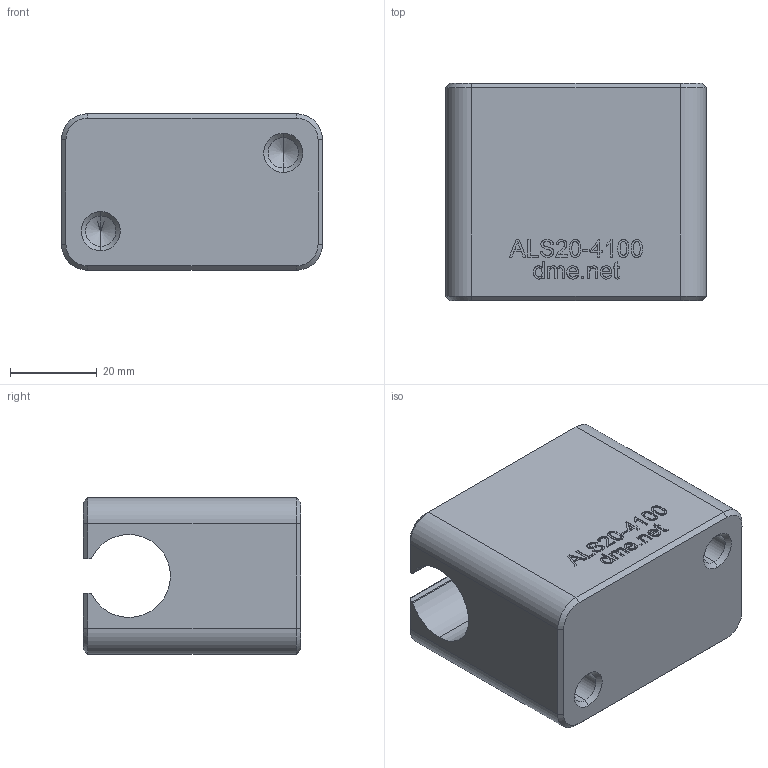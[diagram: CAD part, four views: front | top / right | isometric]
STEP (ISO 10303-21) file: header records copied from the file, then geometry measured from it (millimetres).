
FILE_DESCRIPTION (( 'STEP AP203' ), '1' );
FILE_NAME ('ALS20-4100.STEP', '2021-01-11T12:41:53', ( '' ), ( '' ), 'SwSTEP 2.0', 'SolidWorks 2020', '' );
FILE_SCHEMA (( 'CONFIG_CONTROL_DESIGN' ));
Length unit declared in the file: millimetre
Products named in the file (1): ALS20-4100
Bounding box: 60 x 50 x 36 mm (x, y, z)
Volume: 87309.2 mm3; surface area: 16062.9 mm2
Topology: 1 solids, 1 shells, 269 faces, 702 edges, 458 vertices
Faces by surface type: plane 136, bspline 102, cone 16, cylinder 15
Entity records: 13781 total; most frequent: CARTESIAN_POINT 7802, ORIENTED_EDGE 1396, DIRECTION 862, EDGE_CURVE 698, VERTEX_POINT 458, VECTOR 450, LINE 450, EDGE_LOOP 296
